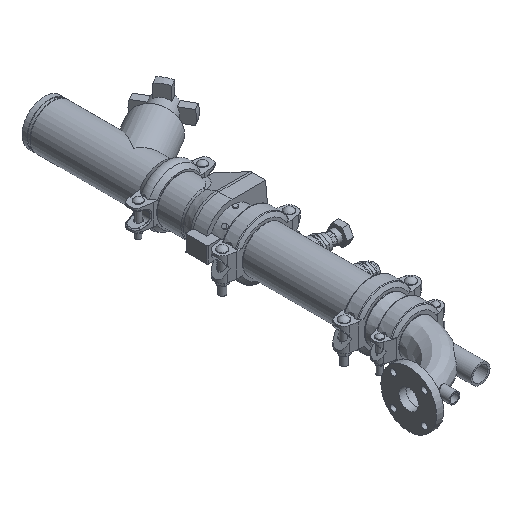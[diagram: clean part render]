
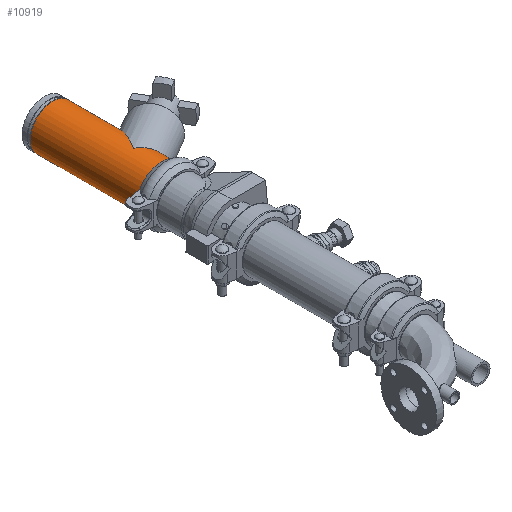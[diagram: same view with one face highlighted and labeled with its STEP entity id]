
A CAD part, isometric view. The second image highlights one B-rep face of the part: STEP entity #10919.
In plain terms, the highlighted cylindrical face has radius 70.65 mm (diameter 141.3 mm), a full revolution.
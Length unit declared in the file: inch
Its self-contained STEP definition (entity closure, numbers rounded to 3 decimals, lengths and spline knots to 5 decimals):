
#285=ELLIPSE('',#12013,5.563,2.7815);
#286=ELLIPSE('',#12014,3.2118,2.7815);
#287=ELLIPSE('',#12015,3.2118,2.7815);
#288=ELLIPSE('',#12016,5.563,2.7815);
#708=LINE('',#18196,#1509);
#709=LINE('',#18201,#1510);
#1509=VECTOR('',#14138,2.7815);
#1510=VECTOR('',#14143,2.7815);
#2035=CYLINDRICAL_SURFACE('',#12010,2.7815);
#2502=FACE_OUTER_BOUND('',#3121,.T.);
#3121=EDGE_LOOP('',(#8027,#8028,#8029,#8030,#8031,#8032,#8033,#8034,#8035,
#8036,#8037,#8038));
#3727=CIRCLE('',#11991,2.7815);
#3728=CIRCLE('',#11992,2.7815);
#3741=CIRCLE('',#12011,2.7815);
#3742=CIRCLE('',#12012,2.7815);
#4521=VERTEX_POINT('',#18154);
#4522=VERTEX_POINT('',#18155);
#4535=VERTEX_POINT('',#18191);
#4536=VERTEX_POINT('',#18192);
#4537=VERTEX_POINT('',#18195);
#4538=VERTEX_POINT('',#18197);
#4539=VERTEX_POINT('',#18199);
#4540=VERTEX_POINT('',#18202);
#5788=EDGE_CURVE('',#4521,#4522,#3727,.T.);
#5789=EDGE_CURVE('',#4522,#4521,#3728,.T.);
#5805=EDGE_CURVE('',#4535,#4536,#3741,.T.);
#5806=EDGE_CURVE('',#4536,#4535,#3742,.T.);
#5807=EDGE_CURVE('',#4536,#4537,#708,.T.);
#5808=EDGE_CURVE('',#4537,#4538,#285,.T.);
#5809=EDGE_CURVE('',#4538,#4539,#286,.T.);
#5810=EDGE_CURVE('',#4539,#4522,#709,.T.);
#5811=EDGE_CURVE('',#4539,#4540,#287,.T.);
#5812=EDGE_CURVE('',#4540,#4537,#288,.T.);
#8027=ORIENTED_EDGE('',*,*,#5805,.F.);
#8028=ORIENTED_EDGE('',*,*,#5806,.F.);
#8029=ORIENTED_EDGE('',*,*,#5807,.T.);
#8030=ORIENTED_EDGE('',*,*,#5808,.T.);
#8031=ORIENTED_EDGE('',*,*,#5809,.T.);
#8032=ORIENTED_EDGE('',*,*,#5810,.T.);
#8033=ORIENTED_EDGE('',*,*,#5789,.T.);
#8034=ORIENTED_EDGE('',*,*,#5788,.T.);
#8035=ORIENTED_EDGE('',*,*,#5810,.F.);
#8036=ORIENTED_EDGE('',*,*,#5811,.T.);
#8037=ORIENTED_EDGE('',*,*,#5812,.T.);
#8038=ORIENTED_EDGE('',*,*,#5807,.F.);
#10919=ADVANCED_FACE('',(#2502),#2035,.T.);
#11991=AXIS2_PLACEMENT_3D('',#18156,#14091,#14092);
#11992=AXIS2_PLACEMENT_3D('',#18157,#14093,#14094);
#12010=AXIS2_PLACEMENT_3D('',#18190,#14132,#14133);
#12011=AXIS2_PLACEMENT_3D('',#18193,#14134,#14135);
#12012=AXIS2_PLACEMENT_3D('',#18194,#14136,#14137);
#12013=AXIS2_PLACEMENT_3D('',#18198,#14139,#14140);
#12014=AXIS2_PLACEMENT_3D('',#18200,#14141,#14142);
#12015=AXIS2_PLACEMENT_3D('',#18203,#14144,#14145);
#12016=AXIS2_PLACEMENT_3D('',#18204,#14146,#14147);
#14091=DIRECTION('center_axis',(1.,0.,0.));
#14092=DIRECTION('ref_axis',(0.,0.,-1.));
#14093=DIRECTION('center_axis',(1.,0.,0.));
#14094=DIRECTION('ref_axis',(0.,0.,-1.));
#14132=DIRECTION('center_axis',(1.,0.,0.));
#14133=DIRECTION('ref_axis',(0.,1.,0.));
#14134=DIRECTION('center_axis',(1.,0.,0.));
#14135=DIRECTION('ref_axis',(0.,0.,-1.));
#14136=DIRECTION('center_axis',(1.,0.,0.));
#14137=DIRECTION('ref_axis',(0.,0.,-1.));
#14138=DIRECTION('',(-1.,0.,0.));
#14139=DIRECTION('center_axis',(0.5,0.866,0.));
#14140=DIRECTION('ref_axis',(-0.866,0.5,0.));
#14141=DIRECTION('center_axis',(-0.866,0.5,0.));
#14142=DIRECTION('ref_axis',(-0.5,-0.866,0.));
#14143=DIRECTION('',(-1.,0.,0.));
#14144=DIRECTION('center_axis',(-0.866,0.5,0.));
#14145=DIRECTION('ref_axis',(-0.5,-0.866,0.));
#14146=DIRECTION('center_axis',(0.5,0.866,0.));
#14147=DIRECTION('ref_axis',(-0.866,0.5,0.));
#18154=CARTESIAN_POINT('',(-6.875,2.7815,0.));
#18155=CARTESIAN_POINT('',(-6.875,-2.7815,0.));
#18156=CARTESIAN_POINT('Origin',(-6.875,0.,0.));
#18157=CARTESIAN_POINT('Origin',(-6.875,0.,0.));
#18190=CARTESIAN_POINT('Origin',(0.,0.,
0.));
#18191=CARTESIAN_POINT('',(6.875,2.7815,0.));
#18192=CARTESIAN_POINT('',(6.875,-2.7815,0.));
#18193=CARTESIAN_POINT('Origin',(6.875,0.,0.));
#18194=CARTESIAN_POINT('Origin',(6.875,0.,0.));
#18195=CARTESIAN_POINT('',(1.44546,-2.7815,0.));
#18196=CARTESIAN_POINT('',(0.,-2.7815,0.));
#18197=CARTESIAN_POINT('',(-3.37224,0.,-2.7815));
#18198=CARTESIAN_POINT('Origin',(-3.37224,0.,
0.));
#18199=CARTESIAN_POINT('',(-4.97814,-2.7815,0.));
#18200=CARTESIAN_POINT('Origin',(-3.37224,0.,
0.));
#18201=CARTESIAN_POINT('',(0.,-2.7815,0.));
#18202=CARTESIAN_POINT('',(-3.37224,0.,2.7815));
#18203=CARTESIAN_POINT('Origin',(-3.37224,0.,
0.));
#18204=CARTESIAN_POINT('Origin',(-3.37224,0.,
0.));
